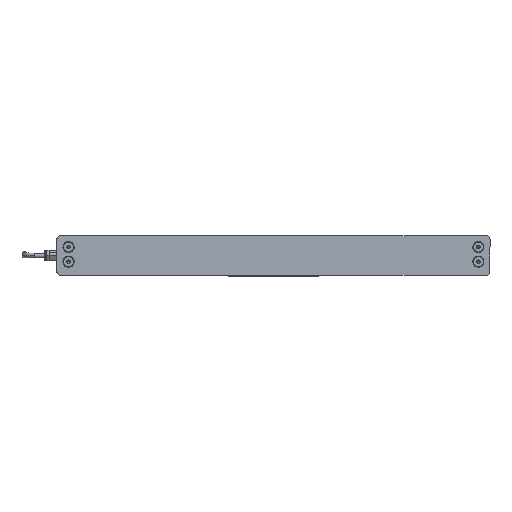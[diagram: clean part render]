
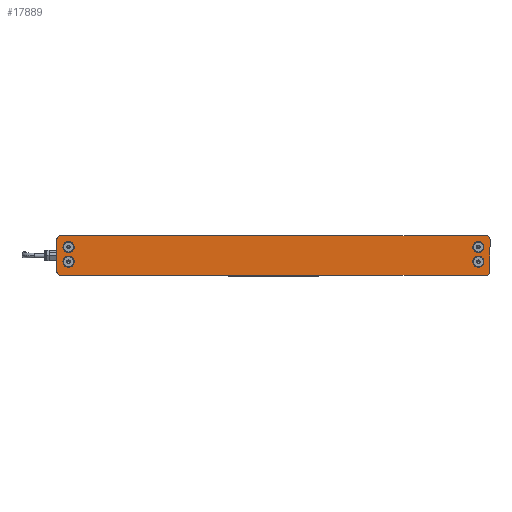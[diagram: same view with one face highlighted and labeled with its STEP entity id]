
A CAD part, left-side view. The second image highlights one B-rep face of the part: STEP entity #17889.
In plain terms, the highlighted planar face has unit normal (-1, 0, 0) as drawn and (0, 0, -1) by its records, which use the part's own axes.
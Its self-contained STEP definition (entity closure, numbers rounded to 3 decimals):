
#118 = ORIENTED_EDGE ( 'NONE', *, *, #11362, .F. ) ;
#286 = CARTESIAN_POINT ( 'NONE',  ( 214., -16., 0. ) ) ;
#890 = CARTESIAN_POINT ( 'NONE',  ( -206.3, -6.3, 0. ) ) ;
#979 = AXIS2_PLACEMENT_3D ( 'NONE', #6627, #24447, #6493 ) ;
#1023 = ORIENTED_EDGE ( 'NONE', *, *, #15430, .F. ) ;
#1224 = CARTESIAN_POINT ( 'NONE',  ( 214., 20., 0. ) ) ;
#1485 = CARTESIAN_POINT ( 'NONE',  ( -214., 20., 0. ) ) ;
#1680 = VERTEX_POINT ( 'NONE', #20558 ) ;
#1777 = DIRECTION ( 'NONE',  ( -1., 0., 0. ) ) ;
#1913 = EDGE_CURVE ( 'NONE', #17832, #20974, #25497, .T. ) ;
#2240 = CARTESIAN_POINT ( 'NONE',  ( -214., 16., 0. ) ) ;
#2347 = EDGE_LOOP ( 'NONE', ( #23927, #1023 ) ) ;
#2811 = DIRECTION ( 'NONE',  ( 0., 0., -1. ) ) ;
#2988 = DIRECTION ( 'NONE',  ( 0., 0., -1. ) ) ;
#3020 = DIRECTION ( 'NONE',  ( -1., 0., 0. ) ) ;
#3097 = AXIS2_PLACEMENT_3D ( 'NONE', #21396, #17590, #19442 ) ;
#3379 = EDGE_CURVE ( 'NONE', #7520, #9520, #19869, .T. ) ;
#3403 = CARTESIAN_POINT ( 'NONE',  ( 218., -16., 0. ) ) ;
#3502 = DIRECTION ( 'NONE',  ( 0., 0., 1. ) ) ;
#3604 = DIRECTION ( 'NONE',  ( -1., 0., 0. ) ) ;
#3845 = DIRECTION ( 'NONE',  ( -1., 0., 0. ) ) ;
#4179 = ORIENTED_EDGE ( 'NONE', *, *, #14131, .F. ) ;
#4293 = EDGE_LOOP ( 'NONE', ( #18983, #4179, #16245, #20033, #23842, #21415, #6890, #14716 ) ) ;
#4780 = AXIS2_PLACEMENT_3D ( 'NONE', #21141, #14351, #3020 ) ;
#4916 = CARTESIAN_POINT ( 'NONE',  ( 214., 16., 0. ) ) ;
#5048 = DIRECTION ( 'NONE',  ( -1., 0., 0. ) ) ;
#5096 = AXIS2_PLACEMENT_3D ( 'NONE', #4916, #2811, #10431 ) ;
#5165 = VERTEX_POINT ( 'NONE', #25422 ) ;
#5802 = CIRCLE ( 'NONE', #7514, 5.6 ) ;
#5807 = CARTESIAN_POINT ( 'NONE',  ( 206.3, -6.3, 0. ) ) ;
#5957 = EDGE_CURVE ( 'NONE', #16962, #17832, #15489, .T. ) ;
#6493 = DIRECTION ( 'NONE',  ( -1., 0., 0. ) ) ;
#6590 = VECTOR ( 'NONE', #21331, 1000. ) ;
#6627 = CARTESIAN_POINT ( 'NONE',  ( 206.3, 8.5, 0. ) ) ;
#6756 = CARTESIAN_POINT ( 'NONE',  ( -206.3, -6.3, 0. ) ) ;
#6785 = VERTEX_POINT ( 'NONE', #22486 ) ;
#6890 = ORIENTED_EDGE ( 'NONE', *, *, #22604, .F. ) ;
#6895 = FACE_BOUND ( 'NONE', #21634, .T. ) ;
#7006 = CIRCLE ( 'NONE', #7404, 5.6 ) ;
#7167 = CIRCLE ( 'NONE', #17233, 5.6 ) ;
#7250 = EDGE_CURVE ( 'NONE', #9520, #7520, #21894, .T. ) ;
#7404 = AXIS2_PLACEMENT_3D ( 'NONE', #890, #2988, #24887 ) ;
#7514 = AXIS2_PLACEMENT_3D ( 'NONE', #22885, #21954, #3845 ) ;
#7520 = VERTEX_POINT ( 'NONE', #23425 ) ;
#7523 = DIRECTION ( 'NONE',  ( 0., 0., 1. ) ) ;
#7533 = DIRECTION ( 'NONE',  ( 0., 0., 1. ) ) ;
#7634 = LINE ( 'NONE', #21439, #18842 ) ;
#7821 = EDGE_CURVE ( 'NONE', #24287, #17079, #8950, .T. ) ;
#8040 = VERTEX_POINT ( 'NONE', #1224 ) ;
#8285 = DIRECTION ( 'NONE',  ( 1., 0., 0. ) ) ;
#8521 = EDGE_CURVE ( 'NONE', #11567, #9252, #17365, .T. ) ;
#8709 = FACE_BOUND ( 'NONE', #22662, .T. ) ;
#8950 = CIRCLE ( 'NONE', #979, 5.6 ) ;
#9152 = CARTESIAN_POINT ( 'NONE',  ( 200.7, 8.5, 0. ) ) ;
#9202 = CARTESIAN_POINT ( 'NONE',  ( -218., -16., 0. ) ) ;
#9252 = VERTEX_POINT ( 'NONE', #25584 ) ;
#9490 = DIRECTION ( 'NONE',  ( 0., 0., -1. ) ) ;
#9520 = VERTEX_POINT ( 'NONE', #20755 ) ;
#10143 = CARTESIAN_POINT ( 'NONE',  ( 211.9, 8.5, 0. ) ) ;
#10426 = EDGE_CURVE ( 'NONE', #8040, #14138, #11250, .T. ) ;
#10431 = DIRECTION ( 'NONE',  ( -1., 0., 0. ) ) ;
#10659 = ORIENTED_EDGE ( 'NONE', *, *, #15402, .F. ) ;
#11250 = LINE ( 'NONE', #25362, #18081 ) ;
#11362 = EDGE_CURVE ( 'NONE', #5165, #1680, #7006, .T. ) ;
#11455 = EDGE_CURVE ( 'NONE', #17275, #16962, #12429, .T. ) ;
#11492 = CARTESIAN_POINT ( 'NONE',  ( -218., -16., 0. ) ) ;
#11522 = CARTESIAN_POINT ( 'NONE',  ( -214., -16., 0. ) ) ;
#11567 = VERTEX_POINT ( 'NONE', #22504 ) ;
#11624 = DIRECTION ( 'NONE',  ( -1., 0., 0. ) ) ;
#11870 = DIRECTION ( 'NONE',  ( -1., 0., 0. ) ) ;
#12429 = CIRCLE ( 'NONE', #14953, 4. ) ;
#12790 = FACE_BOUND ( 'NONE', #24661, .T. ) ;
#13051 = FACE_BOUND ( 'NONE', #2347, .T. ) ;
#13533 = VECTOR ( 'NONE', #17852, 1000. ) ;
#13783 = CARTESIAN_POINT ( 'NONE',  ( -214., -20., 0. ) ) ;
#14131 = EDGE_CURVE ( 'NONE', #20974, #6785, #7634, .T. ) ;
#14138 = VERTEX_POINT ( 'NONE', #1485 ) ;
#14351 = DIRECTION ( 'NONE',  ( 0., 0., -1. ) ) ;
#14716 = ORIENTED_EDGE ( 'NONE', *, *, #10426, .F. ) ;
#14817 = VERTEX_POINT ( 'NONE', #20060 ) ;
#14953 = AXIS2_PLACEMENT_3D ( 'NONE', #11522, #3502, #1777 ) ;
#15402 = EDGE_CURVE ( 'NONE', #17079, #24287, #5802, .T. ) ;
#15430 = EDGE_CURVE ( 'NONE', #9252, #11567, #23841, .T. ) ;
#15489 = LINE ( 'NONE', #13783, #13533 ) ;
#16197 = EDGE_CURVE ( 'NONE', #6785, #8040, #17218, .T. ) ;
#16245 = ORIENTED_EDGE ( 'NONE', *, *, #1913, .F. ) ;
#16495 = DIRECTION ( 'NONE',  ( 0., 0., -1. ) ) ;
#16785 = EDGE_CURVE ( 'NONE', #1680, #5165, #7167, .T. ) ;
#16888 = AXIS2_PLACEMENT_3D ( 'NONE', #17949, #16495, #25916 ) ;
#16962 = VERTEX_POINT ( 'NONE', #16994 ) ;
#16994 = CARTESIAN_POINT ( 'NONE',  ( -214., -20., 0. ) ) ;
#17079 = VERTEX_POINT ( 'NONE', #10143 ) ;
#17218 = CIRCLE ( 'NONE', #19728, 4. ) ;
#17233 = AXIS2_PLACEMENT_3D ( 'NONE', #6756, #20663, #22366 ) ;
#17275 = VERTEX_POINT ( 'NONE', #9202 ) ;
#17365 = CIRCLE ( 'NONE', #3097, 5.6 ) ;
#17583 = AXIS2_PLACEMENT_3D ( 'NONE', #286, #22730, #8285 ) ;
#17590 = DIRECTION ( 'NONE',  ( 0., 0., -1. ) ) ;
#17832 = VERTEX_POINT ( 'NONE', #24066 ) ;
#17849 = CIRCLE ( 'NONE', #23293, 4. ) ;
#17852 = DIRECTION ( 'NONE',  ( 1., 0., 0. ) ) ;
#17889 = ADVANCED_FACE ( 'NONE', ( #8709, #13051, #6895, #12790, #20936 ), #18960, .T. ) ;
#17949 = CARTESIAN_POINT ( 'NONE',  ( -206.3, 8.5, 0. ) ) ;
#17976 = ORIENTED_EDGE ( 'NONE', *, *, #3379, .F. ) ;
#18081 = VECTOR ( 'NONE', #3604, 1000. ) ;
#18842 = VECTOR ( 'NONE', #21318, 1000. ) ;
#18960 = PLANE ( 'NONE',  #5096 ) ;
#18983 = ORIENTED_EDGE ( 'NONE', *, *, #16197, .F. ) ;
#19442 = DIRECTION ( 'NONE',  ( -1., 0., 0. ) ) ;
#19728 = AXIS2_PLACEMENT_3D ( 'NONE', #21326, #7523, #5048 ) ;
#19869 = CIRCLE ( 'NONE', #4780, 5.6 ) ;
#19930 = ORIENTED_EDGE ( 'NONE', *, *, #16785, .F. ) ;
#20033 = ORIENTED_EDGE ( 'NONE', *, *, #5957, .F. ) ;
#20060 = CARTESIAN_POINT ( 'NONE',  ( -218., 16., 0. ) ) ;
#20438 = ORIENTED_EDGE ( 'NONE', *, *, #7821, .F. ) ;
#20558 = CARTESIAN_POINT ( 'NONE',  ( -200.7, -6.3, 0. ) ) ;
#20663 = DIRECTION ( 'NONE',  ( 0., 0., -1. ) ) ;
#20755 = CARTESIAN_POINT ( 'NONE',  ( -200.7, 8.5, 0. ) ) ;
#20936 = FACE_OUTER_BOUND ( 'NONE', #4293, .T. ) ;
#20974 = VERTEX_POINT ( 'NONE', #3403 ) ;
#21023 = ORIENTED_EDGE ( 'NONE', *, *, #7250, .F. ) ;
#21141 = CARTESIAN_POINT ( 'NONE',  ( -206.3, 8.5, 0. ) ) ;
#21318 = DIRECTION ( 'NONE',  ( 0., 1., 0. ) ) ;
#21326 = CARTESIAN_POINT ( 'NONE',  ( 214., 16., 0. ) ) ;
#21331 = DIRECTION ( 'NONE',  ( 0., -1., 0. ) ) ;
#21396 = CARTESIAN_POINT ( 'NONE',  ( 206.3, -6.3, 0. ) ) ;
#21415 = ORIENTED_EDGE ( 'NONE', *, *, #23152, .F. ) ;
#21439 = CARTESIAN_POINT ( 'NONE',  ( 218., -16., 0. ) ) ;
#21583 = LINE ( 'NONE', #11492, #6590 ) ;
#21634 = EDGE_LOOP ( 'NONE', ( #17976, #21023 ) ) ;
#21894 = CIRCLE ( 'NONE', #16888, 5.6 ) ;
#21954 = DIRECTION ( 'NONE',  ( 0., 0., -1. ) ) ;
#22366 = DIRECTION ( 'NONE',  ( -1., 0., 0. ) ) ;
#22486 = CARTESIAN_POINT ( 'NONE',  ( 218., 16., 0. ) ) ;
#22504 = CARTESIAN_POINT ( 'NONE',  ( 200.7, -6.3, 0. ) ) ;
#22598 = AXIS2_PLACEMENT_3D ( 'NONE', #5807, #9490, #11870 ) ;
#22604 = EDGE_CURVE ( 'NONE', #14138, #14817, #17849, .T. ) ;
#22662 = EDGE_LOOP ( 'NONE', ( #20438, #10659 ) ) ;
#22730 = DIRECTION ( 'NONE',  ( 0., 0., 1. ) ) ;
#22885 = CARTESIAN_POINT ( 'NONE',  ( 206.3, 8.5, 0. ) ) ;
#23152 = EDGE_CURVE ( 'NONE', #14817, #17275, #21583, .T. ) ;
#23293 = AXIS2_PLACEMENT_3D ( 'NONE', #2240, #7533, #11624 ) ;
#23425 = CARTESIAN_POINT ( 'NONE',  ( -211.9, 8.5, 0. ) ) ;
#23841 = CIRCLE ( 'NONE', #22598, 5.6 ) ;
#23842 = ORIENTED_EDGE ( 'NONE', *, *, #11455, .F. ) ;
#23927 = ORIENTED_EDGE ( 'NONE', *, *, #8521, .F. ) ;
#24066 = CARTESIAN_POINT ( 'NONE',  ( 214., -20., 0. ) ) ;
#24287 = VERTEX_POINT ( 'NONE', #9152 ) ;
#24447 = DIRECTION ( 'NONE',  ( 0., 0., -1. ) ) ;
#24661 = EDGE_LOOP ( 'NONE', ( #118, #19930 ) ) ;
#24887 = DIRECTION ( 'NONE',  ( -1., 0., 0. ) ) ;
#25362 = CARTESIAN_POINT ( 'NONE',  ( -214., 20., 0. ) ) ;
#25422 = CARTESIAN_POINT ( 'NONE',  ( -211.9, -6.3, 0. ) ) ;
#25497 = CIRCLE ( 'NONE', #17583, 4. ) ;
#25584 = CARTESIAN_POINT ( 'NONE',  ( 211.9, -6.3, 0. ) ) ;
#25916 = DIRECTION ( 'NONE',  ( -1., 0., 0. ) ) ;
